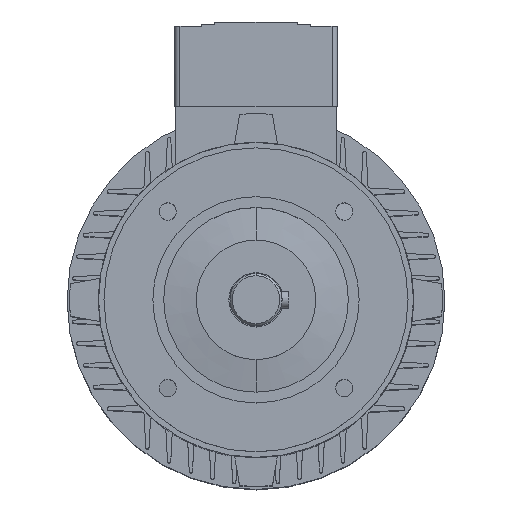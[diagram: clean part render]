
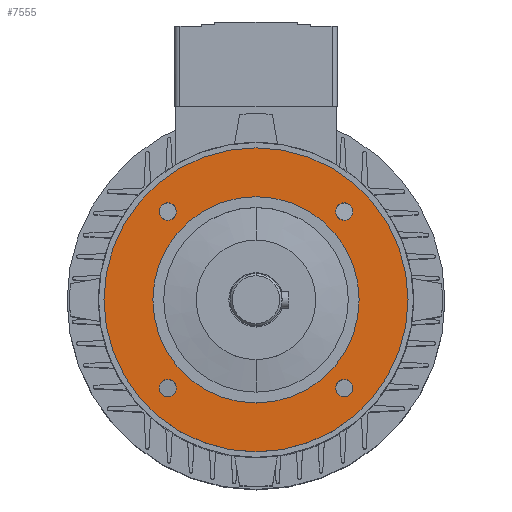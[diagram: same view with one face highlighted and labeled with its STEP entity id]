
A CAD part, top view. The second image highlights one B-rep face of the part: STEP entity #7555.
In plain terms, the highlighted planar face has unit normal (0, 0, 1).
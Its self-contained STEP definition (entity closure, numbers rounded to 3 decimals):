
#2279=CARTESIAN_POINT('',(-40.659,40.659,31.5));
#2280=DIRECTION('',(0.,0.,-1.));
#2281=DIRECTION('',(-1.,0.,0.));
#2282=AXIS2_PLACEMENT_3D('',#2279,#2280,#2281);
#2284=CARTESIAN_POINT('',(-40.659,40.659,31.5));
#2285=DIRECTION('',(0.,0.,-1.));
#2286=DIRECTION('',(1.,0.,0.));
#2287=AXIS2_PLACEMENT_3D('',#2284,#2285,#2286);
#2289=CARTESIAN_POINT('',(-40.659,-40.659,31.5));
#2290=DIRECTION('',(0.,0.,-1.));
#2291=DIRECTION('',(-1.,0.,0.));
#2292=AXIS2_PLACEMENT_3D('',#2289,#2290,#2291);
#2294=CARTESIAN_POINT('',(-40.659,-40.659,31.5));
#2295=DIRECTION('',(0.,0.,-1.));
#2296=DIRECTION('',(1.,0.,0.));
#2297=AXIS2_PLACEMENT_3D('',#2294,#2295,#2296);
#2299=CARTESIAN_POINT('',(40.659,-40.659,31.5));
#2300=DIRECTION('',(0.,0.,-1.));
#2301=DIRECTION('',(-1.,0.,0.));
#2302=AXIS2_PLACEMENT_3D('',#2299,#2300,#2301);
#2304=CARTESIAN_POINT('',(40.659,-40.659,31.5));
#2305=DIRECTION('',(0.,0.,-1.));
#2306=DIRECTION('',(1.,0.,0.));
#2307=AXIS2_PLACEMENT_3D('',#2304,#2305,#2306);
#2309=CARTESIAN_POINT('',(0.,0.,31.5));
#2310=DIRECTION('',(0.,0.,1.));
#2311=DIRECTION('',(0.,1.,0.));
#2312=AXIS2_PLACEMENT_3D('',#2309,#2310,#2311);
#2314=CARTESIAN_POINT('',(0.,0.,31.5));
#2315=DIRECTION('',(0.,0.,-1.));
#2316=DIRECTION('',(0.,1.,0.));
#2317=AXIS2_PLACEMENT_3D('',#2314,#2315,#2316);
#2319=CARTESIAN_POINT('',(40.659,40.659,31.5));
#2320=DIRECTION('',(0.,0.,-1.));
#2321=DIRECTION('',(-1.,0.,0.));
#2322=AXIS2_PLACEMENT_3D('',#2319,#2320,#2321);
#2324=CARTESIAN_POINT('',(40.659,40.659,31.5));
#2325=DIRECTION('',(0.,0.,-1.));
#2326=DIRECTION('',(1.,0.,0.));
#2327=AXIS2_PLACEMENT_3D('',#2324,#2325,#2326);
#2709=CARTESIAN_POINT('',(0.,0.,31.5));
#2710=DIRECTION('',(0.,0.,1.));
#2711=DIRECTION('',(0.,1.,0.));
#2712=AXIS2_PLACEMENT_3D('',#2709,#2710,#2711);
#2714=CARTESIAN_POINT('',(0.,0.,31.5));
#2715=DIRECTION('',(0.,0.,-1.));
#2716=DIRECTION('',(0.,1.,0.));
#2717=AXIS2_PLACEMENT_3D('',#2714,#2715,#2716);
#3533=CARTESIAN_POINT('',(0.,70.,31.5));
#3535=VERTEX_POINT('',#3533);
#3536=CARTESIAN_POINT('',(0.,47.5,31.5));
#3538=VERTEX_POINT('',#3536);
#3541=CARTESIAN_POINT('',(0.,-70.,31.5));
#3543=VERTEX_POINT('',#3541);
#3544=CARTESIAN_POINT('',(0.,-47.5,31.5));
#3546=VERTEX_POINT('',#3544);
#3556=CARTESIAN_POINT('',(36.659,40.659,31.5));
#3557=CARTESIAN_POINT('',(44.659,40.659,31.5));
#3558=VERTEX_POINT('',#3556);
#3559=VERTEX_POINT('',#3557);
#3560=CARTESIAN_POINT('',(36.659,-40.659,31.5));
#3561=CARTESIAN_POINT('',(44.659,-40.659,31.5));
#3562=VERTEX_POINT('',#3560);
#3563=VERTEX_POINT('',#3561);
#3564=CARTESIAN_POINT('',(-44.659,-40.659,31.5));
#3565=CARTESIAN_POINT('',(-36.659,-40.659,31.5));
#3566=VERTEX_POINT('',#3564);
#3567=VERTEX_POINT('',#3565);
#3568=CARTESIAN_POINT('',(-44.659,40.659,31.5));
#3569=CARTESIAN_POINT('',(-36.659,40.659,31.5));
#3570=VERTEX_POINT('',#3568);
#3571=VERTEX_POINT('',#3569);
#7516=CARTESIAN_POINT('',(0.,0.,31.5));
#7517=DIRECTION('',(0.,0.,-1.));
#7518=DIRECTION('',(0.,-1.,0.));
#7519=AXIS2_PLACEMENT_3D('',#7516,#7517,#7518);
#7520=PLANE('',#7519);
#7521=ORIENTED_EDGE('',*,*,#7509,.F.);
#7522=ORIENTED_EDGE('',*,*,#7498,.T.);
#7523=EDGE_LOOP('',(#7521,#7522));
#7524=FACE_OUTER_BOUND('',#7523,.F.);
#7526=ORIENTED_EDGE('',*,*,#7525,.F.);
#7528=ORIENTED_EDGE('',*,*,#7527,.F.);
#7529=EDGE_LOOP('',(#7526,#7528));
#7530=FACE_BOUND('',#7529,.F.);
#7532=ORIENTED_EDGE('',*,*,#7531,.F.);
#7534=ORIENTED_EDGE('',*,*,#7533,.F.);
#7535=EDGE_LOOP('',(#7532,#7534));
#7536=FACE_BOUND('',#7535,.F.);
#7538=ORIENTED_EDGE('',*,*,#7537,.F.);
#7540=ORIENTED_EDGE('',*,*,#7539,.F.);
#7541=EDGE_LOOP('',(#7538,#7540));
#7542=FACE_BOUND('',#7541,.F.);
#7544=ORIENTED_EDGE('',*,*,#7543,.F.);
#7546=ORIENTED_EDGE('',*,*,#7545,.T.);
#7547=EDGE_LOOP('',(#7544,#7546));
#7548=FACE_BOUND('',#7547,.F.);
#7550=ORIENTED_EDGE('',*,*,#7549,.F.);
#7552=ORIENTED_EDGE('',*,*,#7551,.F.);
#7553=EDGE_LOOP('',(#7550,#7552));
#7554=FACE_BOUND('',#7553,.F.);
#7555=ADVANCED_FACE('',(#7524,#7530,#7536,#7542,#7548,#7554),#7520,.F.);
#2283=CIRCLE('',#2282,4.);
#2288=CIRCLE('',#2287,4.);
#2293=CIRCLE('',#2292,4.);
#2298=CIRCLE('',#2297,4.);
#2303=CIRCLE('',#2302,4.);
#2308=CIRCLE('',#2307,4.);
#2313=CIRCLE('',#2312,70.);
#2318=CIRCLE('',#2317,70.);
#2323=CIRCLE('',#2322,4.);
#2328=CIRCLE('',#2327,4.);
#2713=CIRCLE('',#2712,47.5);
#2718=CIRCLE('',#2717,47.5);
#7498=EDGE_CURVE('',#3535,#3543,#2318,.T.);
#7509=EDGE_CURVE('',#3535,#3543,#2313,.T.);
#7525=EDGE_CURVE('',#3570,#3571,#2283,.T.);
#7527=EDGE_CURVE('',#3571,#3570,#2288,.T.);
#7531=EDGE_CURVE('',#3566,#3567,#2293,.T.);
#7533=EDGE_CURVE('',#3567,#3566,#2298,.T.);
#7537=EDGE_CURVE('',#3562,#3563,#2303,.T.);
#7539=EDGE_CURVE('',#3563,#3562,#2308,.T.);
#7543=EDGE_CURVE('',#3538,#3546,#2718,.T.);
#7545=EDGE_CURVE('',#3538,#3546,#2713,.T.);
#7549=EDGE_CURVE('',#3558,#3559,#2323,.T.);
#7551=EDGE_CURVE('',#3559,#3558,#2328,.T.);
